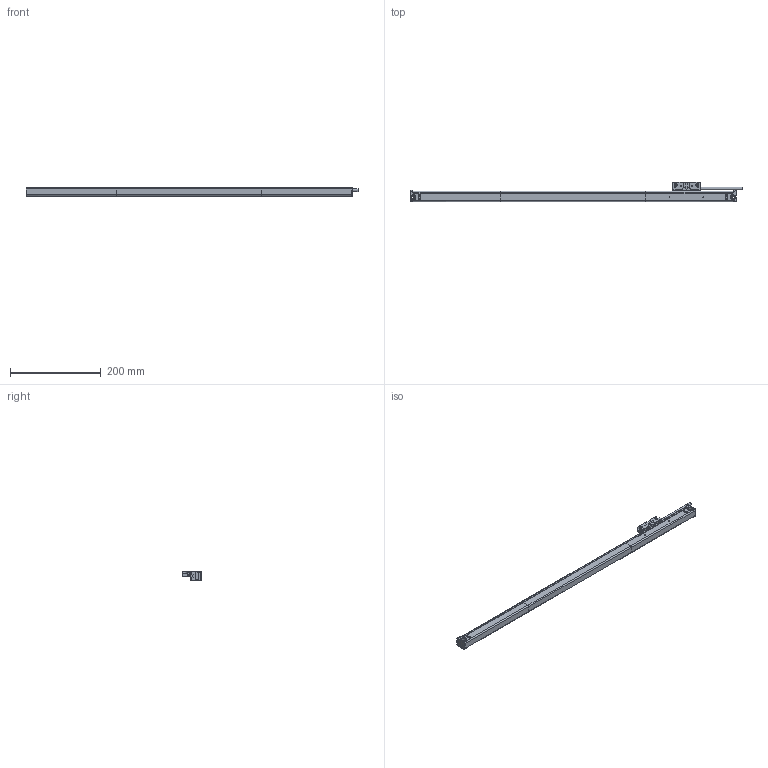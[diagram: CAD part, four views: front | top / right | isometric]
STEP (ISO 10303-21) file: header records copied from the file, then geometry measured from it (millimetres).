
FILE_DESCRIPTION( ( 'STEP AP203' ), '1' );
FILE_NAME( 'N:/Engineering/CAD_Solid/Magnescale/GBER/GB-060ER_SR138-060R.stp', '2013-03-14T10:06:58', ( ' ' ), ( ' ' ), 'XStep 1.0', ' ', ' ' );
FILE_SCHEMA( ( 'CONFIG_CONTROL_DESIGN) ( )' ) );
Length unit declared in the file: metre
Products named in the file (1): 1
Bounding box: 732.5 x 42 x 21 mm (x, y, z)
Surface area: 75412.6 mm2 (no closed solid volume)
Topology: 0 solids, 295 shells, 295 faces, 1612 edges, 1576 vertices
Faces by surface type: plane 185, cylinder 89, torus 12, cone 9
Full cylindrical faces by diameter (mm): 2.013 x2, 2.113 x2, 3.242 x2, 4 x8, 4.8 x1, 5 x2, 6 x1, 9.8 x2, 10 x2
Entity records: 15559 total; most frequent: CARTESIAN_POINT 3426, DIRECTION 2626, ORIENTED_EDGE 1565, EDGE_CURVE 1565, VERTEX_POINT 1565, LINE 1096, VECTOR 1096, AXIS2_PLACEMENT_3D 765
